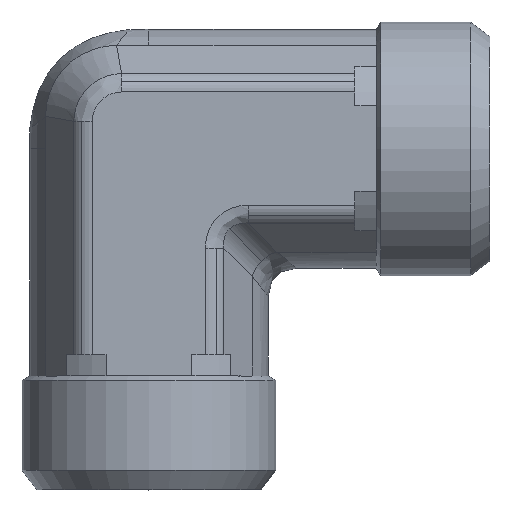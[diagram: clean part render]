
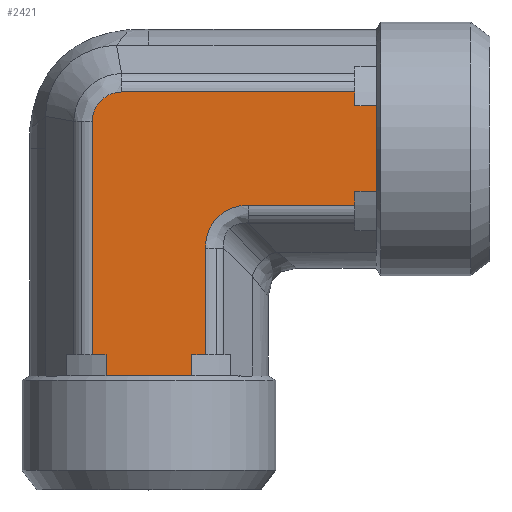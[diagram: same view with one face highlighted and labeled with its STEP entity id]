
A CAD part, top view. The second image highlights one B-rep face of the part: STEP entity #2421.
In plain terms, the highlighted planar face has unit normal (0, 0, 1) as drawn and (0, -1, 0) by its records, which use the part's own axes.
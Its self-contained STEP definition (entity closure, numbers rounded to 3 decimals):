
#361=CARTESIAN_POINT('',(2.515,-8.4,3.984));
#362=VERTEX_POINT('',#361);
#370=CARTESIAN_POINT('',(10.,-8.4,3.984));
#371=VERTEX_POINT('',#370);
#372=CARTESIAN_POINT('',(2.515,-8.4,3.984));
#373=DIRECTION('',(1.0,0.0,0.0));
#374=VECTOR('',#373,7.485);
#375=LINE('',#372,#374);
#376=EDGE_CURVE('',#362,#371,#375,.T.);
#485=CARTESIAN_POINT('',(-8.484,-8.4,-1.926));
#486=VERTEX_POINT('',#485);
#494=CARTESIAN_POINT('',(-8.484,-8.4,14.5));
#495=VERTEX_POINT('',#494);
#496=CARTESIAN_POINT('',(-8.484,-8.4,-1.926));
#497=DIRECTION('',(0.0,0.0,1.0));
#498=VECTOR('',#497,16.426);
#499=LINE('',#496,#498);
#500=EDGE_CURVE('',#486,#495,#499,.T.);
#692=CARTESIAN_POINT('',(11.5,-8.4,0.));
#693=VERTEX_POINT('',#692);
#1867=CARTESIAN_POINT('',(-0.516,-8.4,14.5));
#1868=VERTEX_POINT('',#1867);
#1869=CARTESIAN_POINT('',(-1.484,-8.4,14.5));
#1870=VERTEX_POINT('',#1869);
#1871=CARTESIAN_POINT('',(-0.516,-8.4,14.5));
#1872=DIRECTION('',(-1.0,0.0,0.0));
#1873=VECTOR('',#1872,0.968);
#1874=LINE('',#1871,#1873);
#1875=EDGE_CURVE('',#1868,#1870,#1874,.T.);
#1926=CARTESIAN_POINT('',(-7.516,-8.4,14.5));
#1927=VERTEX_POINT('',#1926);
#1928=CARTESIAN_POINT('',(-7.516,-8.4,14.5));
#1929=DIRECTION('',(-1.0,0.0,0.0));
#1930=VECTOR('',#1929,0.968);
#1931=LINE('',#1928,#1930);
#1932=EDGE_CURVE('',#1927,#495,#1931,.T.);
#1990=CARTESIAN_POINT('',(-7.516,-8.4,16.0));
#1991=VERTEX_POINT('',#1990);
#1992=CARTESIAN_POINT('',(-7.516,-8.4,16.0));
#1993=DIRECTION('',(0.0,0.0,-1.0));
#1994=VECTOR('',#1993,1.5);
#1995=LINE('',#1992,#1994);
#1996=EDGE_CURVE('',#1991,#1927,#1995,.T.);
#2013=CARTESIAN_POINT('',(-1.484,-8.4,16.0));
#2014=VERTEX_POINT('',#2013);
#2015=CARTESIAN_POINT('',(-1.484,-8.4,14.5));
#2016=DIRECTION('',(0.0,0.0,1.0));
#2017=VECTOR('',#2016,1.5);
#2018=LINE('',#2015,#2017);
#2019=EDGE_CURVE('',#1870,#2014,#2018,.T.);
#2295=CARTESIAN_POINT('',(-4.5,-8.4,16.0));
#2296=VERTEX_POINT('',#2295);
#2297=CARTESIAN_POINT('',(-4.5,-8.4,16.0));
#2298=DIRECTION('',(-1.0,0.0,0.0));
#2299=VECTOR('',#2298,3.016);
#2300=LINE('',#2297,#2299);
#2301=EDGE_CURVE('',#2296,#1991,#2300,.T.);
#2319=CARTESIAN_POINT('',(-4.5,-8.4,-3.175));
#2320=DIRECTION('',(0.0,-1.0,0.0));
#2321=DIRECTION('',(0.0,0.0,-1.0));
#2322=AXIS2_PLACEMENT_3D('',#2319,#2320,#2321);
#2323=PLANE('',#2322);
#2324=ORIENTED_EDGE('',*,*,#1996,.T.);
#2325=ORIENTED_EDGE('',*,*,#1932,.T.);
#2326=ORIENTED_EDGE('',*,*,#500,.F.);
#2327=CARTESIAN_POINT('',(-6.426,-8.4,-3.984));
#2328=VERTEX_POINT('',#2327);
#2329=CARTESIAN_POINT('',(-8.484,-8.4,-1.926));
#2330=CARTESIAN_POINT('',(-8.484,-8.4,-2.06));
#2331=CARTESIAN_POINT('',(-8.47,-8.4,-2.195));
#2332=CARTESIAN_POINT('',(-8.402,-8.4,-2.54));
#2333=CARTESIAN_POINT('',(-8.326,-8.4,-2.743));
#2334=CARTESIAN_POINT('',(-8.051,-8.4,-3.233));
#2335=CARTESIAN_POINT('',(-7.806,-8.4,-3.49));
#2336=CARTESIAN_POINT('',(-7.186,-8.4,-3.876));
#2337=CARTESIAN_POINT('',(-6.806,-8.4,-3.984));
#2338=CARTESIAN_POINT('',(-6.426,-8.4,-3.984));
#2339=B_SPLINE_CURVE_WITH_KNOTS('',3,(#2329,#2330,#2331,#2332,#2333,#2334,#2335,#2336,#2337,#2338),.UNSPECIFIED.,.F.,.U.,(4,2,2,2,4),(-3.216,-2.814,-2.171,-1.142,0.0),.UNSPECIFIED.);
#2340=EDGE_CURVE('',#2328,#486,#2339,.F.);
#2341=ORIENTED_EDGE('',*,*,#2340,.F.);
#2342=CARTESIAN_POINT('',(10.,-8.4,-3.984));
#2343=VERTEX_POINT('',#2342);
#2344=CARTESIAN_POINT('',(10.,-8.4,-3.984));
#2345=DIRECTION('',(-1.0,0.0,0.0));
#2346=VECTOR('',#2345,16.426);
#2347=LINE('',#2344,#2346);
#2348=EDGE_CURVE('',#2343,#2328,#2347,.T.);
#2349=ORIENTED_EDGE('',*,*,#2348,.F.);
#2350=CARTESIAN_POINT('',(10.,-8.4,-3.016));
#2351=VERTEX_POINT('',#2350);
#2352=CARTESIAN_POINT('',(10.,-8.4,-3.984));
#2353=DIRECTION('',(0.0,0.0,1.0));
#2354=VECTOR('',#2353,0.968);
#2355=LINE('',#2352,#2354);
#2356=EDGE_CURVE('',#2343,#2351,#2355,.T.);
#2357=ORIENTED_EDGE('',*,*,#2356,.T.);
#2358=CARTESIAN_POINT('',(11.5,-8.4,-3.016));
#2359=VERTEX_POINT('',#2358);
#2360=CARTESIAN_POINT('',(10.,-8.4,-3.016));
#2361=DIRECTION('',(1.0,0.0,0.0));
#2362=VECTOR('',#2361,1.5);
#2363=LINE('',#2360,#2362);
#2364=EDGE_CURVE('',#2351,#2359,#2363,.T.);
#2365=ORIENTED_EDGE('',*,*,#2364,.T.);
#2366=CARTESIAN_POINT('',(11.5,-8.4,-3.016));
#2367=DIRECTION('',(0.0,0.0,1.0));
#2368=VECTOR('',#2367,3.016);
#2369=LINE('',#2366,#2368);
#2370=EDGE_CURVE('',#2359,#693,#2369,.T.);
#2371=ORIENTED_EDGE('',*,*,#2370,.T.);
#2372=CARTESIAN_POINT('',(11.5,-8.4,3.016));
#2373=VERTEX_POINT('',#2372);
#2374=CARTESIAN_POINT('',(11.5,-8.4,0.));
#2375=DIRECTION('',(0.0,0.0,1.0));
#2376=VECTOR('',#2375,3.016);
#2377=LINE('',#2374,#2376);
#2378=EDGE_CURVE('',#693,#2373,#2377,.T.);
#2379=ORIENTED_EDGE('',*,*,#2378,.T.);
#2380=CARTESIAN_POINT('',(10.,-8.4,3.016));
#2381=VERTEX_POINT('',#2380);
#2382=CARTESIAN_POINT('',(11.5,-8.4,3.016));
#2383=DIRECTION('',(-1.0,0.0,0.0));
#2384=VECTOR('',#2383,1.5);
#2385=LINE('',#2382,#2384);
#2386=EDGE_CURVE('',#2373,#2381,#2385,.T.);
#2387=ORIENTED_EDGE('',*,*,#2386,.T.);
#2388=CARTESIAN_POINT('',(10.,-8.4,3.016));
#2389=DIRECTION('',(0.0,0.0,1.0));
#2390=VECTOR('',#2389,0.968);
#2391=LINE('',#2388,#2390);
#2392=EDGE_CURVE('',#2381,#371,#2391,.T.);
#2393=ORIENTED_EDGE('',*,*,#2392,.T.);
#2394=ORIENTED_EDGE('',*,*,#376,.F.);
#2395=CARTESIAN_POINT('',(-0.516,-8.4,7.015));
#2396=VERTEX_POINT('',#2395);
#2397=CARTESIAN_POINT('',(3.525,-8.4,8.025));
#2398=DIRECTION('',(0.,-1.,0.));
#2399=DIRECTION('',(-0.707,0.,-0.707));
#2400=AXIS2_PLACEMENT_3D('',#2397,#2398,#2399);
#2401=ELLIPSE('',#2400,4.518,3.5);
#2402=EDGE_CURVE('',#2396,#362,#2401,.T.);
#2403=ORIENTED_EDGE('',*,*,#2402,.F.);
#2404=CARTESIAN_POINT('',(-0.516,-8.4,14.5));
#2405=DIRECTION('',(0.0,0.0,-1.0));
#2406=VECTOR('',#2405,7.485);
#2407=LINE('',#2404,#2406);
#2408=EDGE_CURVE('',#1868,#2396,#2407,.T.);
#2409=ORIENTED_EDGE('',*,*,#2408,.F.);
#2410=ORIENTED_EDGE('',*,*,#1875,.T.);
#2411=ORIENTED_EDGE('',*,*,#2019,.T.);
#2412=CARTESIAN_POINT('',(-1.484,-8.4,16.0));
#2413=DIRECTION('',(-1.0,0.0,0.0));
#2414=VECTOR('',#2413,3.016);
#2415=LINE('',#2412,#2414);
#2416=EDGE_CURVE('',#2014,#2296,#2415,.T.);
#2417=ORIENTED_EDGE('',*,*,#2416,.T.);
#2418=ORIENTED_EDGE('',*,*,#2301,.T.);
#2419=EDGE_LOOP('',(#2324,#2325,#2326,#2341,#2349,#2357,#2365,#2371,#2379,#2387,#2393,#2394,#2403,#2409,#2410,#2411,#2417,#2418));
#2420=FACE_OUTER_BOUND('',#2419,.T.);
#2421=ADVANCED_FACE('',(#2420),#2323,.T.);
